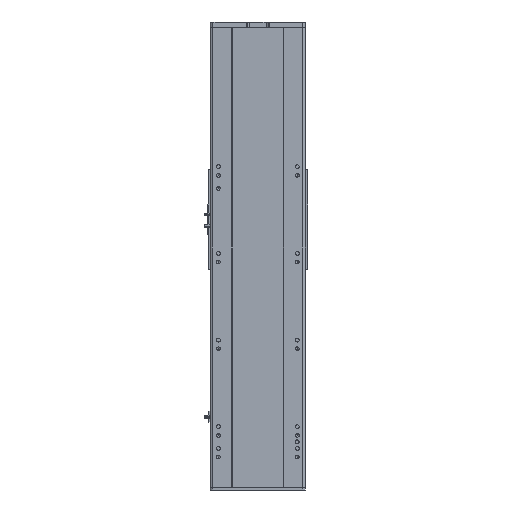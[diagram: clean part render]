
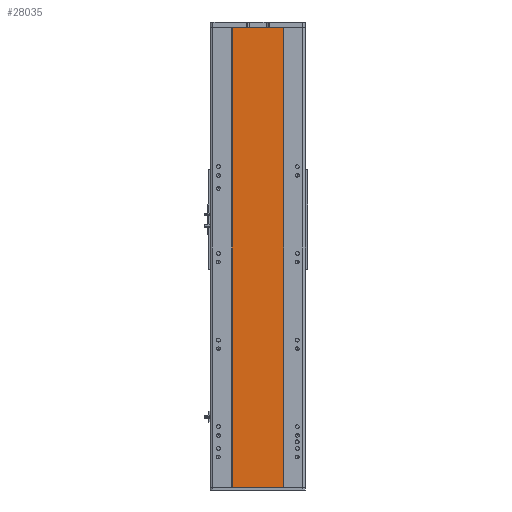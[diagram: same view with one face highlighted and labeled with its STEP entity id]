
A CAD part, front view. The second image highlights one B-rep face of the part: STEP entity #28035.
In plain terms, the highlighted planar face has unit normal (0, -1, 0).
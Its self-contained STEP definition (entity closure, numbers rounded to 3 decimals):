
#508 = DIRECTION ( 'NONE',  ( -1., 0., 0. ) ) ;
#1734 = CARTESIAN_POINT ( 'NONE',  ( -59., 1., -530.5 ) ) ;
#3551 = VERTEX_POINT ( 'NONE', #19161 ) ;
#3868 = VECTOR ( 'NONE', #3895, 1000. ) ;
#3895 = DIRECTION ( 'NONE',  ( 1., 0., 0. ) ) ;
#4717 = CARTESIAN_POINT ( 'NONE',  ( -59., 1., 530.5 ) ) ;
#4851 = AXIS2_PLACEMENT_3D ( 'NONE', #31962, #12267, #508 ) ;
#6082 = LINE ( 'NONE', #1734, #37015 ) ;
#6098 = LINE ( 'NONE', #29600, #3868 ) ;
#7197 = VERTEX_POINT ( 'NONE', #15316 ) ;
#7240 = EDGE_LOOP ( 'NONE', ( #22600, #25717, #14110, #8863 ) ) ;
#7413 = DIRECTION ( 'NONE',  ( 0., 0., -1. ) ) ;
#7625 = VERTEX_POINT ( 'NONE', #29089 ) ;
#8863 = ORIENTED_EDGE ( 'NONE', *, *, #31473, .T. ) ;
#12267 = DIRECTION ( 'NONE',  ( 0., 1., 0. ) ) ;
#13324 = CARTESIAN_POINT ( 'NONE',  ( 59., 1., 530.5 ) ) ;
#13452 = VECTOR ( 'NONE', #7413, 1000. ) ;
#14110 = ORIENTED_EDGE ( 'NONE', *, *, #35071, .F. ) ;
#14890 = VERTEX_POINT ( 'NONE', #4717 ) ;
#15316 = CARTESIAN_POINT ( 'NONE',  ( 59., 1., -530.5 ) ) ;
#19161 = CARTESIAN_POINT ( 'NONE',  ( -59., 1., -530.5 ) ) ;
#20055 = CARTESIAN_POINT ( 'NONE',  ( -59., 1., 530.5 ) ) ;
#20649 = PLANE ( 'NONE',  #4851 ) ;
#21042 = LINE ( 'NONE', #13324, #13452 ) ;
#22600 = ORIENTED_EDGE ( 'NONE', *, *, #24567, .T. ) ;
#24567 = EDGE_CURVE ( 'NONE', #3551, #7197, #6082, .T. ) ;
#25717 = ORIENTED_EDGE ( 'NONE', *, *, #31319, .F. ) ;
#26457 = LINE ( 'NONE', #20055, #34063 ) ;
#28035 = ADVANCED_FACE ( 'NONE', ( #34797 ), #20649, .F. ) ;
#28502 = DIRECTION ( 'NONE',  ( 0., 0., -1. ) ) ;
#29089 = CARTESIAN_POINT ( 'NONE',  ( 59., 1., 530.5 ) ) ;
#29600 = CARTESIAN_POINT ( 'NONE',  ( -59., 1., 530.5 ) ) ;
#31319 = EDGE_CURVE ( 'NONE', #7625, #7197, #21042, .T. ) ;
#31473 = EDGE_CURVE ( 'NONE', #14890, #3551, #26457, .T. ) ;
#31962 = CARTESIAN_POINT ( 'NONE',  ( -59., 1., 530.5 ) ) ;
#33188 = DIRECTION ( 'NONE',  ( 1., 0., 0. ) ) ;
#34063 = VECTOR ( 'NONE', #28502, 1000. ) ;
#34797 = FACE_OUTER_BOUND ( 'NONE', #7240, .T. ) ;
#35071 = EDGE_CURVE ( 'NONE', #14890, #7625, #6098, .T. ) ;
#37015 = VECTOR ( 'NONE', #33188, 1000. ) ;
